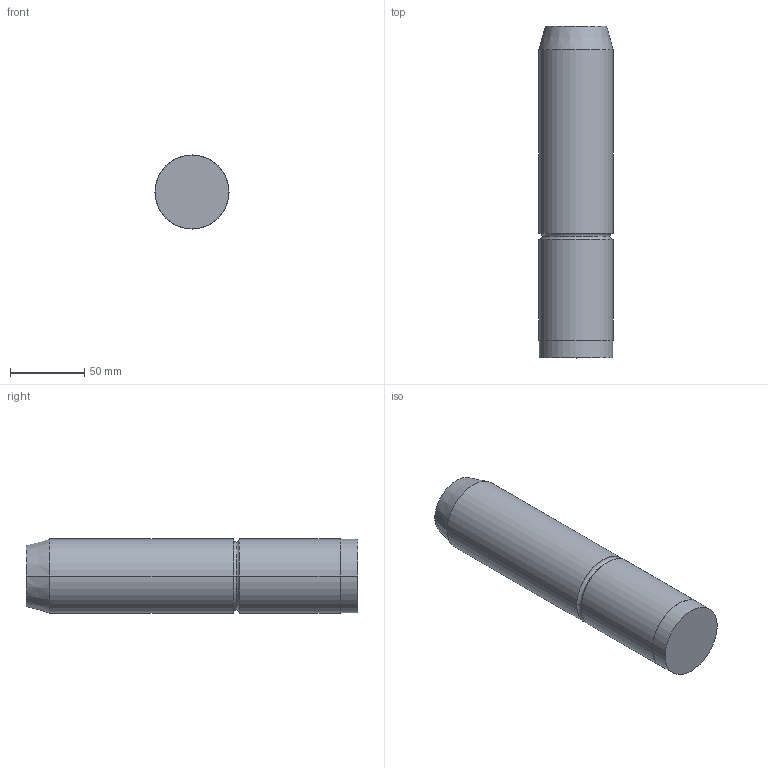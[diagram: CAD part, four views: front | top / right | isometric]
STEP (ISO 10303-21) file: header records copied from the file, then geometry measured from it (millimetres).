
FILE_DESCRIPTION (( 'STEP AP214' ), '1' );
FILE_NAME ('D12_50224.step', '2011-12-17T23:21:02', ( 'Dell' ), ( '' ), 'SwSTEP 2.0', 'SolidWorks 2010', '' );
FILE_SCHEMA (( 'AUTOMOTIVE_DESIGN' ));
Length unit declared in the file: metre
Products named in the file (1): D12_50224
Bounding box: 50 x 224 x 50 mm (x, y, z)
Volume: 433506 mm3; surface area: 38676.3 mm2
Topology: 1 solids, 1 shells, 15 faces, 28 edges, 16 vertices
Faces by surface type: cylinder 6, torus 4, plane 3, cone 2
Entity records: 412 total; most frequent: DIRECTION 80, CARTESIAN_POINT 60, ORIENTED_EDGE 56, AXIS2_PLACEMENT_3D 36, EDGE_CURVE 28, CIRCLE 20, EDGE_LOOP 16, VERTEX_POINT 16
